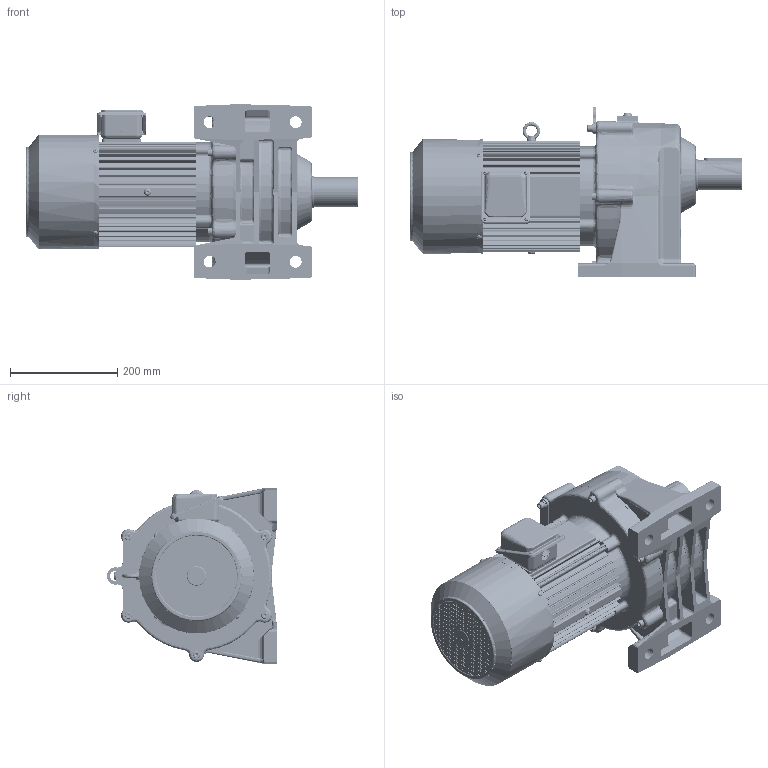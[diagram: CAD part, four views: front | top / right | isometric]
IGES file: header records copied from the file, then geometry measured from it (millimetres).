
Start section: SolidWorks IGES file using analytic representation for surfaces
Global section: file name: \\100.100.100.8\1_共有作業フォルダ\1-5_３Ｄデータ\solidworks\personal-folder\H.Nagayama\SGP1外形_075~370\P1(3D)_075~370\igs\TMLB2-22-(30~80).IGS; native system: SolidWorks 2018; preprocessor: SolidWorks 2018; author: user; date: 210309.160456; units: millimetre
Bounding box: 618 x 316.87 x 327 mm (x, y, z)
Surface area: 1147534.1 mm2 (no closed solid volume)
Topology: 0 solids, 0 shells, 3512 faces, 39239 edges, 39150 vertices
Faces by surface type: bspline 1825, revolution 1687
